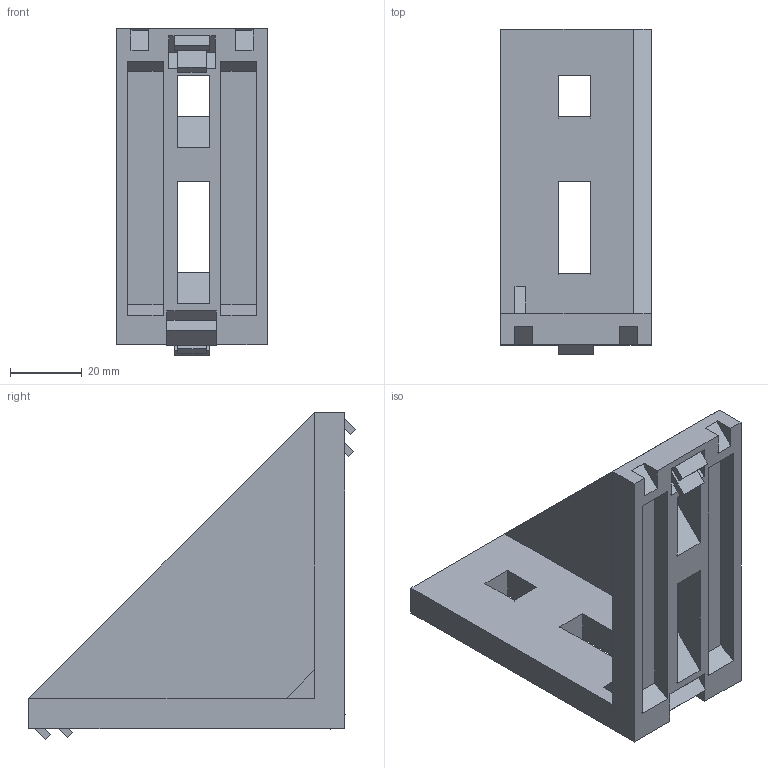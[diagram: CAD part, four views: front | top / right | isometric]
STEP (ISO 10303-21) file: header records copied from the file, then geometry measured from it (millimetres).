
FILE_DESCRIPTION (( 'STEP AP203' ), '1' );
FILE_NAME ('1063.STEP', '2016-03-27T14:35:22', ( '' ), ( '' ), 'SwSTEP 2.0', 'SolidWorks 2014', '' );
FILE_SCHEMA (( 'CONFIG_CONTROL_DESIGN' ));
Length unit declared in the file: millimetre
Products named in the file (1): 1063
Bounding box: 42 x 90.92 x 90.93 mm (x, y, z)
Volume: 54161.1 mm3; surface area: 28295.8 mm2
Topology: 1 solids, 1 shells, 116 faces, 306 edges, 198 vertices
Faces by surface type: plane 116
Entity records: 3579 total; most frequent: CARTESIAN_POINT 621, ORIENTED_EDGE 612, DIRECTION 540, VECTOR 306, LINE 306, EDGE_CURVE 306, VERTEX_POINT 198, EDGE_LOOP 130
